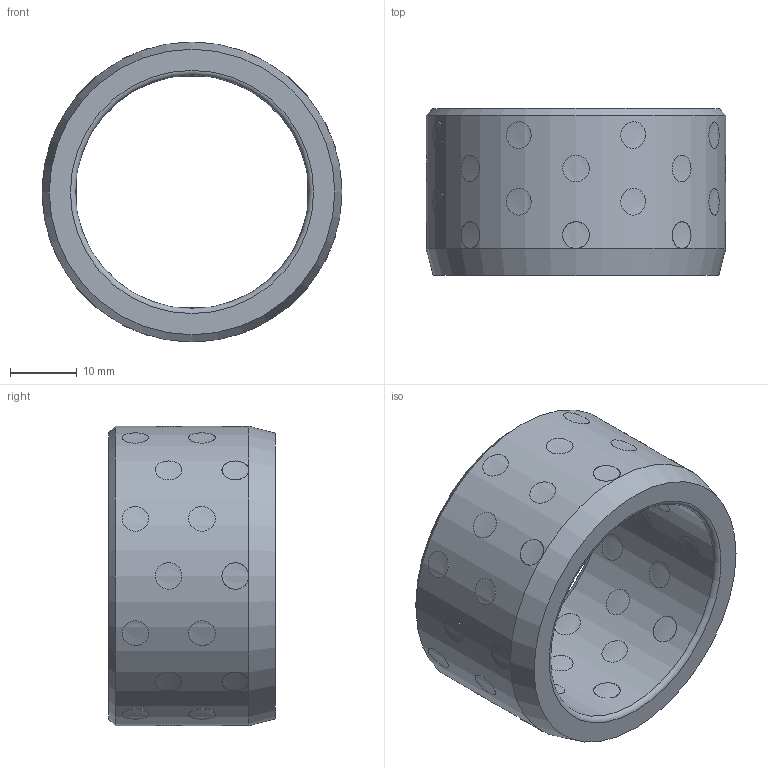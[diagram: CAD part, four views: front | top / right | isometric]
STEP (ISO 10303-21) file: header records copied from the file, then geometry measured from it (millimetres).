
FILE_DESCRIPTION( ( 'STEP AP203' ), '1' );
FILE_NAME( 'D:/Cuma/18 03 2010/D30.04/D30.04_352545.step', '2003-01-24T23:05:50', ( ' ' ), ( ' ' ), 'XStep 1.0', ' ', ' ' );
FILE_SCHEMA( ( 'CONFIG_CONTROL_DESIGN' ) );
Length unit declared in the file: metre
Products named in the file (41): 1; 2; 3; 4; 5; 6; 7; 8; 9; 10; 11; 12; 13; 14; 15; 16; 17; 18; 19; 20; 21; 22; 23; 24; 25; 26; 27; 28; 29; 30; 31; 32; 33; 34; 35; 36; 37; 38; 39; 40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
Bounding box: 45 x 25 x 45 mm (x, y, z)
Volume: 17829.7 mm3; surface area: 10769.8 mm2
Topology: 41 solids, 41 shells, 128 faces, 134 edges, 88 vertices
Faces by surface type: cylinder 122, torus 2, plane 2, cone 2
Full cylindrical faces by diameter (mm): 4 x40, 35 x1, 45 x1
Entity records: 7973 total; most frequent: CARTESIAN_POINT 4585, DIRECTION 354, CC_DESIGN_PERSON_AND_ORGANIZATION_ASSIGNMENT 205, AXIS2_PLACEMENT_3D 177, EDGE_LOOP 176, ORIENTED_EDGE 176, FACE_OUTER_BOUND 172, PERSON_AND_ORGANIZATION_ROLE 164
